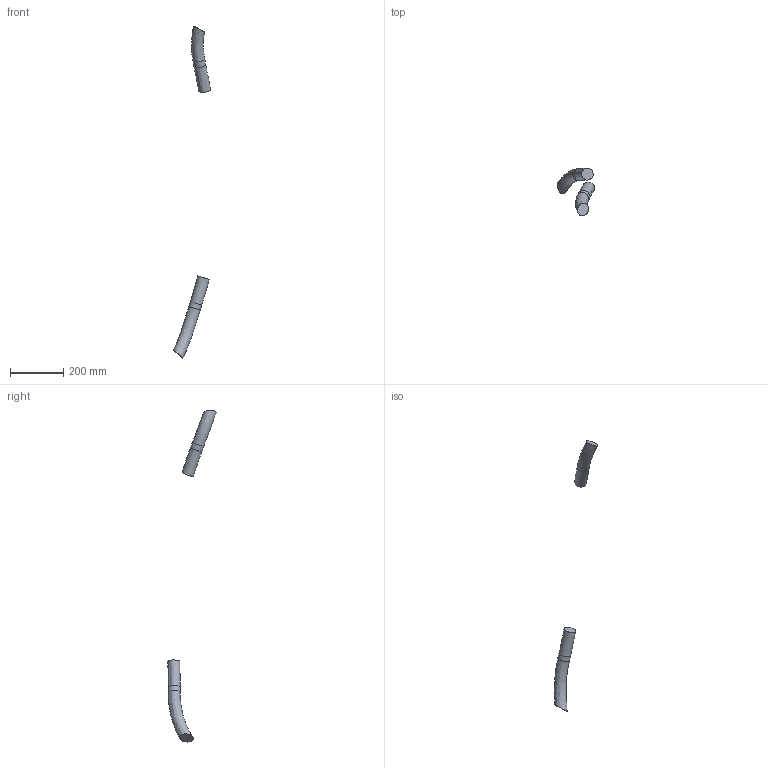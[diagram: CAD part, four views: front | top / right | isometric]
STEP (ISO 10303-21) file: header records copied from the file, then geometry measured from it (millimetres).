
FILE_DESCRIPTION (( 'STEP AP214' ), '1' );
FILE_NAME ('IRB6750S-ALL-OC_00_LINK02m_CABLE.step', '2026-05-13T05:27:26', ( '' ), ( '' ), 'SwSTEP 2.0', 'SolidWorks 2024', '' );
FILE_SCHEMA (( 'AUTOMOTIVE_DESIGN' ));
Length unit declared in the file: millimetre
Products named in the file (1): IRB6750S-ALL-OC_00_LINK02m_CABLE
Bounding box: 139.5 x 180.98 x 1245.72 mm (x, y, z)
Volume: 884007.1 mm3; surface area: 85428.6 mm2
Topology: 2 solids, 2 shells, 10 faces, 14 edges, 8 vertices
Faces by surface type: plane 4, bspline 4, cylinder 2
Full cylindrical faces by diameter (mm): 45 x2
Entity records: 2375 total; most frequent: CARTESIAN_POINT 2104, DIRECTION 22, ORIENTED_EDGE 16, EDGE_LOOP 16, FACE_OUTER_BOUND 16, UNCERTAINTY_MEASURE_WITH_UNIT 13, PRESENTATION_STYLE_ASSIGNMENT 12, SURFACE_STYLE_FILL_AREA 12
